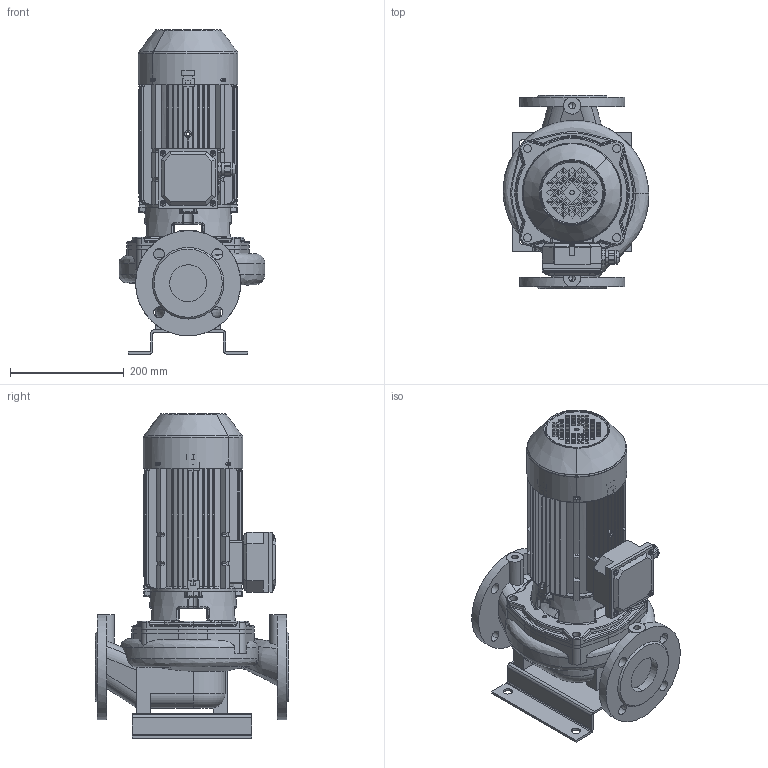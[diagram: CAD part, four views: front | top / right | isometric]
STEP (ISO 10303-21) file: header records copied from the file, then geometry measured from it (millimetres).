
FILE_DESCRIPTION(('STEP AP214'),'1');
FILE_NAME('export.stp','2018-05-28T11:30:53',(' '),(' '),'Spatial InterOp 3D',' ',' ');
FILE_SCHEMA(('AUTOMOTIVE_DESIGN { 1 0 10303 214 1 1 1 1 }'));
Length unit declared in the file: millimetre
Products named in the file (25): W_ALP10652220KP90; V_TLL65AB80A1102; V_PPL65AB; V_JALKA35973; 160024; 160004_Valu; V_MKP90_1_F19; M5x8_DIN; DIN_7985-M5X8; 160141; M5x12_DIN; DIN_7985-M5X12; 160137; 160138; 160139; 160140; Koura_Ale_M5; Plug_Blind_M20; Sealing_Plug_M20; 160048___; 160068___; 160135
Assembly tree (27 placements, depth 5):
  W_ALP10652220KP90
    V_TLL65AB80A1102
    V_PPL65AB
    V_JALKA35973
    V_MKP90_1_F19
      160024
        160004_Valu
      160141
        M5x8_DIN
          DIN_7985-M5X8
        M5x12_DIN
          DIN_7985-M5X12
        M5x12_DIN
          DIN_7985-M5X12
        M5x12_DIN
          DIN_7985-M5X12
        M5x12_DIN
          DIN_7985-M5X12
        160137
        160138
        160139
        160140
        Koura_Ale_M5
        Plug_Blind_M20
        Sealing_Plug_M20
      160048___
      160068___
      160135
Bounding box: 256.35 x 340 x 571 mm (x, y, z)
Volume: 6818277 mm3; surface area: 1464204.6 mm2
Topology: 20 solids, 20 shells, 2585 faces, 6876 edges, 4317 vertices
Faces by surface type: plane 1047, cylinder 802, torus 276, bspline 272, cone 151, sphere 37
Entity records: 100345 total; most frequent: CARTESIAN_POINT 35013, ORIENTED_EDGE 13308, DIRECTION 12303, EDGE_CURVE 6654, AXIS2_PLACEMENT_3D 4647, VERTEX_POINT 4221, LINE 3009, VECTOR 3009
